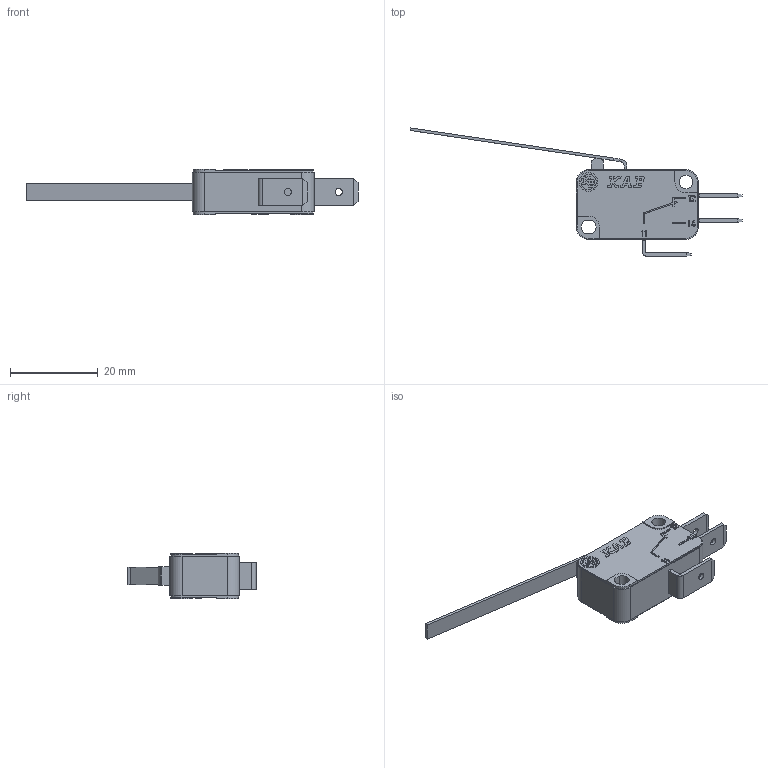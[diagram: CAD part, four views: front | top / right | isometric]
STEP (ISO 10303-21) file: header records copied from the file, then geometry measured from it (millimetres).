
FILE_DESCRIPTION(('Microrutor Miniat Alavanca Rigida Plana'),'2;1');
FILE_NAME('E:\WorkFolder\Bibl\3DWeb\kp_mv_mv$g6fa$_step.stp','2011-05-18T15:26:53',('DIE'),('KAP'),'Autodesk Inventor 2011','Autodesk Inventor 2011','Direitos reservados. Proibido reproducao, cedencia ou revelacao de conteudo a terceiros, salvo com autorizacao.');
FILE_SCHEMA(('AUTOMOTIVE_DESIGN { 1 0 10303 214 1 1 1 1 }'));
Length unit declared in the file: millimetre
Products named in the file (1): Part7
Bounding box: 75.75 x 29.24 x 10.3 mm (x, y, z)
Volume: 4387.6 mm3; surface area: 2896.8 mm2
Topology: 1 solids, 1 shells, 372 faces, 1000 edges, 664 vertices
Faces by surface type: plane 314, cylinder 58
Full cylindrical faces by diameter (mm): 1.6 x3, 3.1 x1, 4.2 x1
Entity records: 11869 total; most frequent: CARTESIAN_POINT 2025, ORIENTED_EDGE 1984, DIRECTION 1854, EDGE_CURVE 992, VECTOR 876, LINE 876, VERTEX_POINT 660, AXIS2_PLACEMENT_3D 489
